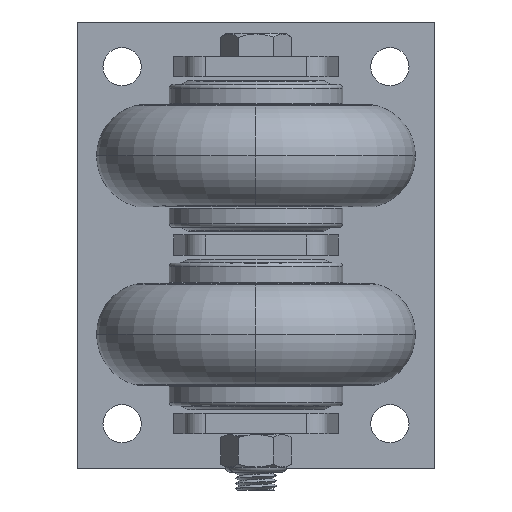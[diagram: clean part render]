
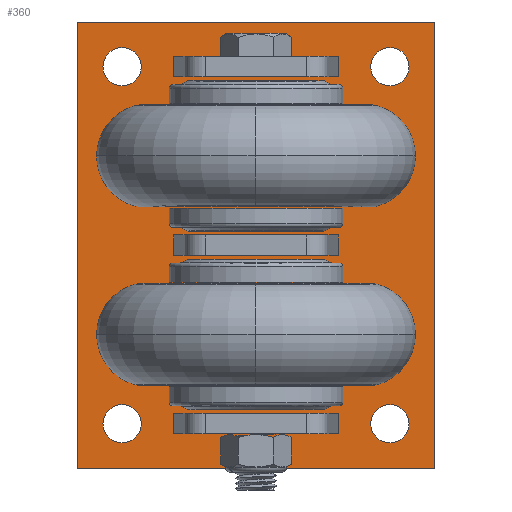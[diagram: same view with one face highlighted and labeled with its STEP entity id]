
A CAD part, left-side view. The second image highlights one B-rep face of the part: STEP entity #360.
In plain terms, the highlighted planar face has unit normal (-1, 0, 0).
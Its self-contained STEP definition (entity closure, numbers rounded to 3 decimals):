
#90=CARTESIAN_POINT('',(-12.,52.5,-70.));
#91=DIRECTION('',(1.,0.,0.));
#92=DIRECTION('',(0.,1.,0.));
#93=AXIS2_PLACEMENT_3D('',#90,#91,#92);
#95=CARTESIAN_POINT('',(-12.,52.5,-70.));
#96=DIRECTION('',(1.,0.,0.));
#97=DIRECTION('',(0.,-1.,0.));
#98=AXIS2_PLACEMENT_3D('',#95,#96,#97);
#100=CARTESIAN_POINT('',(-12.,-52.5,-70.));
#101=DIRECTION('',(1.,0.,0.));
#102=DIRECTION('',(0.,1.,0.));
#103=AXIS2_PLACEMENT_3D('',#100,#101,#102);
#105=CARTESIAN_POINT('',(-12.,-52.5,-70.));
#106=DIRECTION('',(1.,0.,0.));
#107=DIRECTION('',(0.,-1.,0.));
#108=AXIS2_PLACEMENT_3D('',#105,#106,#107);
#110=CARTESIAN_POINT('',(-12.,-52.5,70.));
#111=DIRECTION('',(1.,0.,0.));
#112=DIRECTION('',(0.,1.,0.));
#113=AXIS2_PLACEMENT_3D('',#110,#111,#112);
#115=CARTESIAN_POINT('',(-12.,-52.5,70.));
#116=DIRECTION('',(1.,0.,0.));
#117=DIRECTION('',(0.,-1.,0.));
#118=AXIS2_PLACEMENT_3D('',#115,#116,#117);
#120=CARTESIAN_POINT('',(-12.,52.5,70.));
#121=DIRECTION('',(1.,0.,0.));
#122=DIRECTION('',(0.,1.,0.));
#123=AXIS2_PLACEMENT_3D('',#120,#121,#122);
#125=CARTESIAN_POINT('',(-12.,52.5,70.));
#126=DIRECTION('',(1.,0.,0.));
#127=DIRECTION('',(0.,-1.,0.));
#128=AXIS2_PLACEMENT_3D('',#125,#126,#127);
#130=DIRECTION('',(0.,1.,0.));
#131=VECTOR('',#130,140.);
#132=CARTESIAN_POINT('',(-12.,-70.,87.5));
#133=LINE('',#132,#131);
#134=DIRECTION('',(0.,0.,1.));
#135=VECTOR('',#134,175.);
#136=CARTESIAN_POINT('',(-12.,-70.,-87.5));
#137=LINE('',#136,#135);
#138=DIRECTION('',(0.,-1.,0.));
#139=VECTOR('',#138,140.);
#140=CARTESIAN_POINT('',(-12.,70.,-87.5));
#141=LINE('',#140,#139);
#142=DIRECTION('',(0.,0.,-1.));
#143=VECTOR('',#142,175.);
#144=CARTESIAN_POINT('',(-12.,70.,87.5));
#145=LINE('',#144,#143);
#210=CARTESIAN_POINT('',(-12.,60.,-70.));
#211=CARTESIAN_POINT('',(-12.,45.,-70.));
#212=VERTEX_POINT('',#210);
#213=VERTEX_POINT('',#211);
#214=CARTESIAN_POINT('',(-12.,-45.,-70.));
#215=CARTESIAN_POINT('',(-12.,-60.,-70.));
#216=VERTEX_POINT('',#214);
#217=VERTEX_POINT('',#215);
#218=CARTESIAN_POINT('',(-12.,-45.,70.));
#219=CARTESIAN_POINT('',(-12.,-60.,70.));
#220=VERTEX_POINT('',#218);
#221=VERTEX_POINT('',#219);
#222=CARTESIAN_POINT('',(-12.,60.,70.));
#223=CARTESIAN_POINT('',(-12.,45.,70.));
#224=VERTEX_POINT('',#222);
#225=VERTEX_POINT('',#223);
#226=CARTESIAN_POINT('',(-12.,-70.,87.5));
#227=CARTESIAN_POINT('',(-12.,70.,87.5));
#228=VERTEX_POINT('',#226);
#229=VERTEX_POINT('',#227);
#230=CARTESIAN_POINT('',(-12.,-70.,-87.5));
#231=VERTEX_POINT('',#230);
#232=CARTESIAN_POINT('',(-12.,70.,-87.5));
#233=VERTEX_POINT('',#232);
#323=CARTESIAN_POINT('',(-12.,0.,0.));
#324=DIRECTION('',(1.,0.,0.));
#325=DIRECTION('',(0.,-1.,0.));
#326=AXIS2_PLACEMENT_3D('',#323,#324,#325);
#327=PLANE('',#326);
#329=ORIENTED_EDGE('',*,*,#328,.F.);
#331=ORIENTED_EDGE('',*,*,#330,.F.);
#333=ORIENTED_EDGE('',*,*,#332,.F.);
#335=ORIENTED_EDGE('',*,*,#334,.F.);
#336=EDGE_LOOP('',(#329,#331,#333,#335));
#337=FACE_OUTER_BOUND('',#336,.F.);
#339=ORIENTED_EDGE('',*,*,#338,.F.);
#341=ORIENTED_EDGE('',*,*,#340,.F.);
#342=EDGE_LOOP('',(#339,#341));
#343=FACE_BOUND('',#342,.F.);
#345=ORIENTED_EDGE('',*,*,#344,.F.);
#347=ORIENTED_EDGE('',*,*,#346,.F.);
#348=EDGE_LOOP('',(#345,#347));
#349=FACE_BOUND('',#348,.F.);
#351=ORIENTED_EDGE('',*,*,#350,.F.);
#353=ORIENTED_EDGE('',*,*,#352,.F.);
#354=EDGE_LOOP('',(#351,#353));
#355=FACE_BOUND('',#354,.F.);
#356=ORIENTED_EDGE('',*,*,#289,.F.);
#357=ORIENTED_EDGE('',*,*,#310,.F.);
#358=EDGE_LOOP('',(#356,#357));
#359=FACE_BOUND('',#358,.F.);
#94=CIRCLE('',#93,7.5);
#99=CIRCLE('',#98,7.5);
#104=CIRCLE('',#103,7.5);
#109=CIRCLE('',#108,7.5);
#114=CIRCLE('',#113,7.5);
#119=CIRCLE('',#118,7.5);
#124=CIRCLE('',#123,7.5);
#129=CIRCLE('',#128,7.5);
#289=EDGE_CURVE('',#212,#213,#94,.T.);
#310=EDGE_CURVE('',#213,#212,#99,.T.);
#328=EDGE_CURVE('',#228,#229,#133,.T.);
#330=EDGE_CURVE('',#231,#228,#137,.T.);
#332=EDGE_CURVE('',#233,#231,#141,.T.);
#334=EDGE_CURVE('',#229,#233,#145,.T.);
#338=EDGE_CURVE('',#216,#217,#104,.T.);
#340=EDGE_CURVE('',#217,#216,#109,.T.);
#344=EDGE_CURVE('',#220,#221,#114,.T.);
#346=EDGE_CURVE('',#221,#220,#119,.T.);
#350=EDGE_CURVE('',#224,#225,#124,.T.);
#352=EDGE_CURVE('',#225,#224,#129,.T.);
#360=ADVANCED_FACE('',(#337,#343,#349,#355,#359),#327,.F.);
